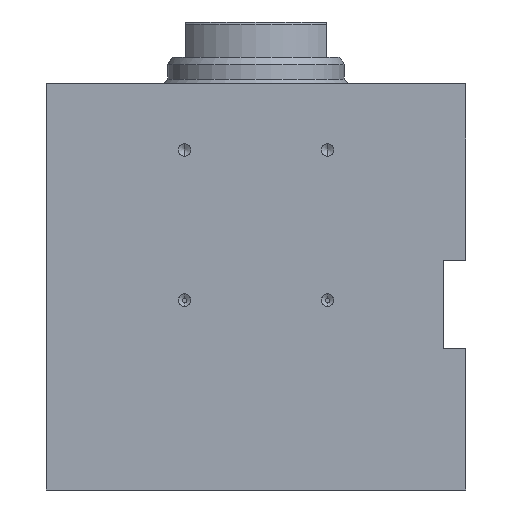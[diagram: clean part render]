
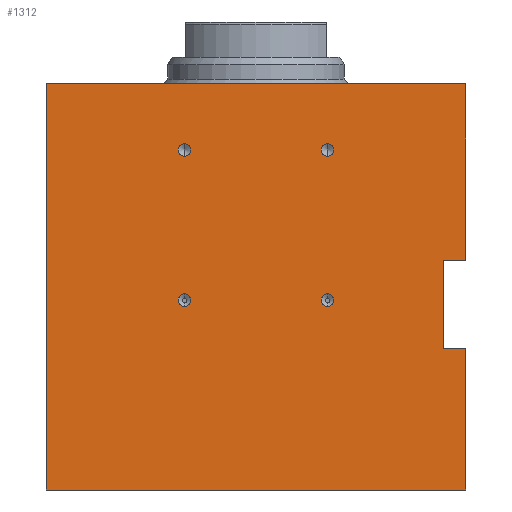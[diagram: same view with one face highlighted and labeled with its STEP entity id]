
A CAD part, front view. The second image highlights one B-rep face of the part: STEP entity #1312.
In plain terms, the highlighted planar face has unit normal (0, -1, 0).
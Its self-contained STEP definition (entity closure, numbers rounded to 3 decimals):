
#1 = VERTEX_POINT ( 'NONE', #452 ) ;
#87 = DIRECTION ( 'NONE',  ( 0., 0., -1. ) ) ;
#175 = CIRCLE ( 'NONE', #1525, 1.425 ) ;
#229 = CARTESIAN_POINT ( 'NONE',  ( -47.5, -62.5, -106. ) ) ;
#273 = EDGE_CURVE ( 'NONE', #1903, #3916, #3685, .T. ) ;
#285 = CIRCLE ( 'NONE', #1650, 1.425 ) ;
#290 = DIRECTION ( 'NONE',  ( 0., -1., 0. ) ) ;
#297 = DIRECTION ( 'NONE',  ( 0., 0., -1. ) ) ;
#304 = EDGE_CURVE ( 'NONE', #1874, #4116, #2224, .T. ) ;
#309 = CARTESIAN_POINT ( 'NONE',  ( 47.5, -62.5, -106. ) ) ;
#330 = FACE_BOUND ( 'NONE', #3476, .T. ) ;
#361 = EDGE_CURVE ( 'NONE', #1853, #3077, #1901, .T. ) ;
#409 = CARTESIAN_POINT ( 'NONE',  ( 42.5, -62.5, -74. ) ) ;
#424 = VERTEX_POINT ( 'NONE', #711 ) ;
#438 = CARTESIAN_POINT ( 'NONE',  ( 16.2, -62.5, -27.575 ) ) ;
#452 = CARTESIAN_POINT ( 'NONE',  ( -16.2, -62.5, -27.575 ) ) ;
#561 = CARTESIAN_POINT ( 'NONE',  ( -47.5, -62.5, -106. ) ) ;
#586 = CARTESIAN_POINT ( 'NONE',  ( 16.2, -62.5, -61.575 ) ) ;
#598 = DIRECTION ( 'NONE',  ( 1., 0., 0. ) ) ;
#626 = CARTESIAN_POINT ( 'NONE',  ( -16.2, -62.5, -64.425 ) ) ;
#627 = EDGE_CURVE ( 'NONE', #3916, #1903, #2641, .T. ) ;
#637 = CARTESIAN_POINT ( 'NONE',  ( 16.2, -62.5, -30.425 ) ) ;
#711 = CARTESIAN_POINT ( 'NONE',  ( -47.5, -62.5, -14. ) ) ;
#718 = CARTESIAN_POINT ( 'NONE',  ( 47.5, -62.5, -14. ) ) ;
#736 = CARTESIAN_POINT ( 'NONE',  ( 42.5, -62.5, -54. ) ) ;
#743 = EDGE_CURVE ( 'NONE', #424, #2519, #3598, .T. ) ;
#798 = CARTESIAN_POINT ( 'NONE',  ( 42.5, -62.5, -74. ) ) ;
#882 = DIRECTION ( 'NONE',  ( 0., 0., -1. ) ) ;
#892 = CARTESIAN_POINT ( 'NONE',  ( 16.2, -62.5, -64.425 ) ) ;
#938 = DIRECTION ( 'NONE',  ( 1., 0., 0. ) ) ;
#941 = EDGE_CURVE ( 'NONE', #1636, #4916, #285, .T. ) ;
#955 = CARTESIAN_POINT ( 'NONE',  ( 16.2, -62.5, -63. ) ) ;
#973 = CARTESIAN_POINT ( 'NONE',  ( 16.2, -62.5, -29. ) ) ;
#999 = CARTESIAN_POINT ( 'NONE',  ( -47.5, -62.5, -106. ) ) ;
#1118 = ORIENTED_EDGE ( 'NONE', *, *, #273, .F. ) ;
#1194 = EDGE_CURVE ( 'NONE', #4916, #1636, #4727, .T. ) ;
#1236 = CIRCLE ( 'NONE', #1319, 1.425 ) ;
#1312 = ADVANCED_FACE ( 'NONE', ( #4121, #3713, #330, #3737, #3336 ), #4880, .T. ) ;
#1319 = AXIS2_PLACEMENT_3D ( 'NONE', #4413, #3546, #87 ) ;
#1344 = ORIENTED_EDGE ( 'NONE', *, *, #4416, .F. ) ;
#1394 = DIRECTION ( 'NONE',  ( 0., -1., 0. ) ) ;
#1406 = VECTOR ( 'NONE', #2669, 1000. ) ;
#1412 = DIRECTION ( 'NONE',  ( 0., 0., -1. ) ) ;
#1422 = DIRECTION ( 'NONE',  ( 0., 0., 1. ) ) ;
#1499 = CARTESIAN_POINT ( 'NONE',  ( 47.5, -62.5, -106. ) ) ;
#1503 = ORIENTED_EDGE ( 'NONE', *, *, #1590, .T. ) ;
#1517 = DIRECTION ( 'NONE',  ( 0., 0., 1. ) ) ;
#1525 = AXIS2_PLACEMENT_3D ( 'NONE', #2582, #2609, #3355 ) ;
#1532 = CARTESIAN_POINT ( 'NONE',  ( 42.5, -62.5, -54. ) ) ;
#1590 = EDGE_CURVE ( 'NONE', #3917, #1853, #3993, .T. ) ;
#1636 = VERTEX_POINT ( 'NONE', #892 ) ;
#1645 = DIRECTION ( 'NONE',  ( 0., -1., 0. ) ) ;
#1650 = AXIS2_PLACEMENT_3D ( 'NONE', #1837, #290, #3769 ) ;
#1837 = CARTESIAN_POINT ( 'NONE',  ( 16.2, -62.5, -63. ) ) ;
#1853 = VERTEX_POINT ( 'NONE', #4686 ) ;
#1855 = DIRECTION ( 'NONE',  ( 1., 0., 0. ) ) ;
#1874 = VERTEX_POINT ( 'NONE', #3245 ) ;
#1879 = EDGE_CURVE ( 'NONE', #1904, #1, #4912, .T. ) ;
#1897 = LINE ( 'NONE', #3823, #4702 ) ;
#1901 = LINE ( 'NONE', #1499, #4498 ) ;
#1903 = VERTEX_POINT ( 'NONE', #626 ) ;
#1904 = VERTEX_POINT ( 'NONE', #4098 ) ;
#1905 = ORIENTED_EDGE ( 'NONE', *, *, #304, .F. ) ;
#2045 = AXIS2_PLACEMENT_3D ( 'NONE', #999, #2164, #1412 ) ;
#2068 = CARTESIAN_POINT ( 'NONE',  ( -16.2, -62.5, -29. ) ) ;
#2093 = DIRECTION ( 'NONE',  ( 0., 0., -1. ) ) ;
#2164 = DIRECTION ( 'NONE',  ( 0., -1., 0. ) ) ;
#2215 = VERTEX_POINT ( 'NONE', #4696 ) ;
#2224 = LINE ( 'NONE', #736, #3038 ) ;
#2331 = ORIENTED_EDGE ( 'NONE', *, *, #3202, .F. ) ;
#2399 = DIRECTION ( 'NONE',  ( 0., 0., -1. ) ) ;
#2456 = CARTESIAN_POINT ( 'NONE',  ( -47.5, -62.5, -14. ) ) ;
#2519 = VERTEX_POINT ( 'NONE', #718 ) ;
#2530 = AXIS2_PLACEMENT_3D ( 'NONE', #955, #4052, #2399 ) ;
#2582 = CARTESIAN_POINT ( 'NONE',  ( 16.2, -62.5, -29. ) ) ;
#2600 = EDGE_CURVE ( 'NONE', #4789, #4637, #175, .T. ) ;
#2609 = DIRECTION ( 'NONE',  ( 0., -1., 0. ) ) ;
#2630 = AXIS2_PLACEMENT_3D ( 'NONE', #4585, #1394, #297 ) ;
#2641 = CIRCLE ( 'NONE', #4360, 1.425 ) ;
#2669 = DIRECTION ( 'NONE',  ( 0., 0., 1. ) ) ;
#2763 = AXIS2_PLACEMENT_3D ( 'NONE', #973, #3330, #4875 ) ;
#2765 = ORIENTED_EDGE ( 'NONE', *, *, #941, .F. ) ;
#2779 = ORIENTED_EDGE ( 'NONE', *, *, #3976, .T. ) ;
#2836 = ORIENTED_EDGE ( 'NONE', *, *, #1194, .F. ) ;
#2849 = ORIENTED_EDGE ( 'NONE', *, *, #743, .F. ) ;
#3001 = EDGE_CURVE ( 'NONE', #3917, #424, #1897, .T. ) ;
#3038 = VECTOR ( 'NONE', #3425, 1000. ) ;
#3050 = LINE ( 'NONE', #1532, #4795 ) ;
#3077 = VERTEX_POINT ( 'NONE', #3978 ) ;
#3200 = ORIENTED_EDGE ( 'NONE', *, *, #361, .T. ) ;
#3202 = EDGE_CURVE ( 'NONE', #1, #1904, #1236, .T. ) ;
#3222 = DIRECTION ( 'NONE',  ( 0., -1., 0. ) ) ;
#3243 = ORIENTED_EDGE ( 'NONE', *, *, #4472, .F. ) ;
#3245 = CARTESIAN_POINT ( 'NONE',  ( 42.5, -62.5, -54. ) ) ;
#3330 = DIRECTION ( 'NONE',  ( 0., -1., 0. ) ) ;
#3336 = FACE_OUTER_BOUND ( 'NONE', #4830, .T. ) ;
#3355 = DIRECTION ( 'NONE',  ( 0., 0., -1. ) ) ;
#3372 = VECTOR ( 'NONE', #938, 1000. ) ;
#3425 = DIRECTION ( 'NONE',  ( 0., 0., -1. ) ) ;
#3438 = LINE ( 'NONE', #309, #1406 ) ;
#3476 = EDGE_LOOP ( 'NONE', ( #2765, #2836 ) ) ;
#3546 = DIRECTION ( 'NONE',  ( 0., -1., 0. ) ) ;
#3598 = LINE ( 'NONE', #2456, #3372 ) ;
#3639 = ORIENTED_EDGE ( 'NONE', *, *, #4067, .T. ) ;
#3648 = VECTOR ( 'NONE', #3877, 1000. ) ;
#3685 = CIRCLE ( 'NONE', #2630, 1.425 ) ;
#3713 = FACE_BOUND ( 'NONE', #4027, .T. ) ;
#3737 = FACE_BOUND ( 'NONE', #4342, .T. ) ;
#3769 = DIRECTION ( 'NONE',  ( 0., 0., -1. ) ) ;
#3823 = CARTESIAN_POINT ( 'NONE',  ( -47.5, -62.5, -106. ) ) ;
#3877 = DIRECTION ( 'NONE',  ( 1., 0., 0. ) ) ;
#3916 = VERTEX_POINT ( 'NONE', #4026 ) ;
#3917 = VERTEX_POINT ( 'NONE', #561 ) ;
#3976 = EDGE_CURVE ( 'NONE', #2215, #2519, #3438, .T. ) ;
#3978 = CARTESIAN_POINT ( 'NONE',  ( 47.5, -62.5, -74. ) ) ;
#3993 = LINE ( 'NONE', #229, #4759 ) ;
#3999 = ORIENTED_EDGE ( 'NONE', *, *, #627, .F. ) ;
#4026 = CARTESIAN_POINT ( 'NONE',  ( -16.2, -62.5, -61.575 ) ) ;
#4027 = EDGE_LOOP ( 'NONE', ( #4299, #1344 ) ) ;
#4052 = DIRECTION ( 'NONE',  ( 0., -1., 0. ) ) ;
#4067 = EDGE_CURVE ( 'NONE', #1874, #2215, #3050, .T. ) ;
#4098 = CARTESIAN_POINT ( 'NONE',  ( -16.2, -62.5, -30.425 ) ) ;
#4116 = VERTEX_POINT ( 'NONE', #409 ) ;
#4121 = FACE_BOUND ( 'NONE', #4929, .T. ) ;
#4278 = AXIS2_PLACEMENT_3D ( 'NONE', #2068, #1645, #882 ) ;
#4299 = ORIENTED_EDGE ( 'NONE', *, *, #2600, .F. ) ;
#4314 = ORIENTED_EDGE ( 'NONE', *, *, #3001, .F. ) ;
#4342 = EDGE_LOOP ( 'NONE', ( #1118, #3999 ) ) ;
#4360 = AXIS2_PLACEMENT_3D ( 'NONE', #4794, #3222, #2093 ) ;
#4402 = ORIENTED_EDGE ( 'NONE', *, *, #1879, .F. ) ;
#4413 = CARTESIAN_POINT ( 'NONE',  ( -16.2, -62.5, -29. ) ) ;
#4416 = EDGE_CURVE ( 'NONE', #4637, #4789, #4947, .T. ) ;
#4430 = LINE ( 'NONE', #798, #3648 ) ;
#4472 = EDGE_CURVE ( 'NONE', #4116, #3077, #4430, .T. ) ;
#4498 = VECTOR ( 'NONE', #1422, 1000. ) ;
#4585 = CARTESIAN_POINT ( 'NONE',  ( -16.2, -62.5, -63. ) ) ;
#4637 = VERTEX_POINT ( 'NONE', #438 ) ;
#4686 = CARTESIAN_POINT ( 'NONE',  ( 47.5, -62.5, -106. ) ) ;
#4696 = CARTESIAN_POINT ( 'NONE',  ( 47.5, -62.5, -54. ) ) ;
#4702 = VECTOR ( 'NONE', #1517, 1000. ) ;
#4727 = CIRCLE ( 'NONE', #2530, 1.425 ) ;
#4759 = VECTOR ( 'NONE', #598, 1000. ) ;
#4789 = VERTEX_POINT ( 'NONE', #637 ) ;
#4794 = CARTESIAN_POINT ( 'NONE',  ( -16.2, -62.5, -63. ) ) ;
#4795 = VECTOR ( 'NONE', #1855, 1000. ) ;
#4830 = EDGE_LOOP ( 'NONE', ( #3639, #2779, #2849, #4314, #1503, #3200, #3243, #1905 ) ) ;
#4875 = DIRECTION ( 'NONE',  ( 0., 0., -1. ) ) ;
#4880 = PLANE ( 'NONE',  #2045 ) ;
#4912 = CIRCLE ( 'NONE', #4278, 1.425 ) ;
#4916 = VERTEX_POINT ( 'NONE', #586 ) ;
#4929 = EDGE_LOOP ( 'NONE', ( #4402, #2331 ) ) ;
#4947 = CIRCLE ( 'NONE', #2763, 1.425 ) ;
